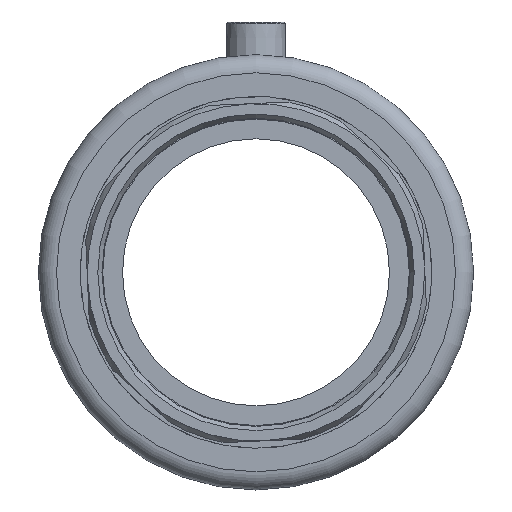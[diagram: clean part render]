
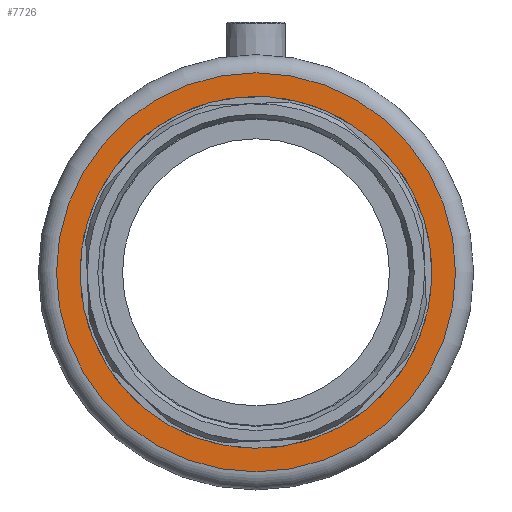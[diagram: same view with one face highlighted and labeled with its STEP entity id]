
A CAD part, left-side view. The second image highlights one B-rep face of the part: STEP entity #7726.
In plain terms, the highlighted planar face has unit normal (-1, 0, 0).
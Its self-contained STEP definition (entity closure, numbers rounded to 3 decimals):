
#863=PLANE('',#10103);
#1086=CIRCLE('',#9704,48.5);
#1264=CIRCLE('',#10104,55.);
#2689=ORIENTED_EDGE('',*,*,#3923,.F.);
#2690=ORIENTED_EDGE('',*,*,#4484,.T.);
#3923=EDGE_CURVE('',#5114,#5114,#1086,.T.);
#4484=EDGE_CURVE('',#5457,#5457,#1264,.T.);
#5114=VERTEX_POINT('',#12723);
#5457=VERTEX_POINT('',#16129);
#6562=EDGE_LOOP('',(#2689));
#6563=EDGE_LOOP('',(#2690));
#7146=FACE_BOUND('',#6562,.T.);
#7147=FACE_BOUND('',#6563,.T.);
#7726=ADVANCED_FACE('',(#7146,#7147),#863,.T.);
#9704=AXIS2_PLACEMENT_3D('',#12722,#10717,#10718);
#10103=AXIS2_PLACEMENT_3D('',#16127,#11573,#11574);
#10104=AXIS2_PLACEMENT_3D('',#16128,#11575,#11576);
#10717=DIRECTION('',(-1.,0.,0.));
#10718=DIRECTION('',(0.,0.,1.));
#11573=DIRECTION('',(-1.,0.,0.));
#11574=DIRECTION('',(0.,0.,1.));
#11575=DIRECTION('',(-1.,0.,0.));
#11576=DIRECTION('',(0.,0.,1.));
#12722=CARTESIAN_POINT('',(0.,0.,0.));
#12723=CARTESIAN_POINT('',(0.,0.,48.5));
#16127=CARTESIAN_POINT('',(0.,0.,42.8));
#16128=CARTESIAN_POINT('',(0.,0.,0.));
#16129=CARTESIAN_POINT('',(0.,0.,55.));
